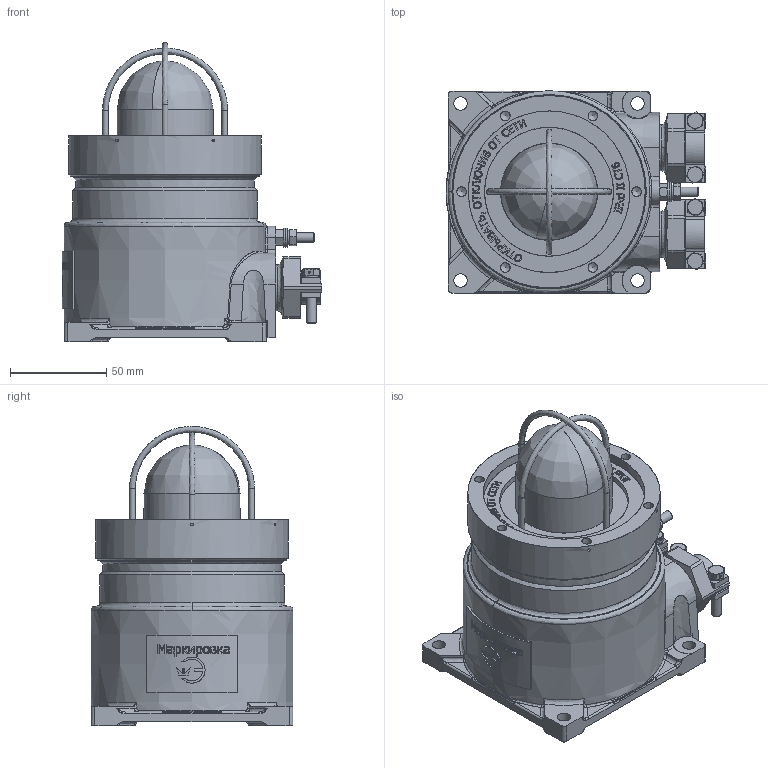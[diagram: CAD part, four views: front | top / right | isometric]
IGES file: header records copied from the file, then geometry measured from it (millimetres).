
Bounding box: 135 x 105 x 155.49 mm (x, y, z)
Surface area: 154623.6 mm2 (no closed solid volume)
Topology: 0 solids, 0 shells, 1367 faces, 9131 edges, 9023 vertices
Faces by surface type: bspline 981, revolution 386
